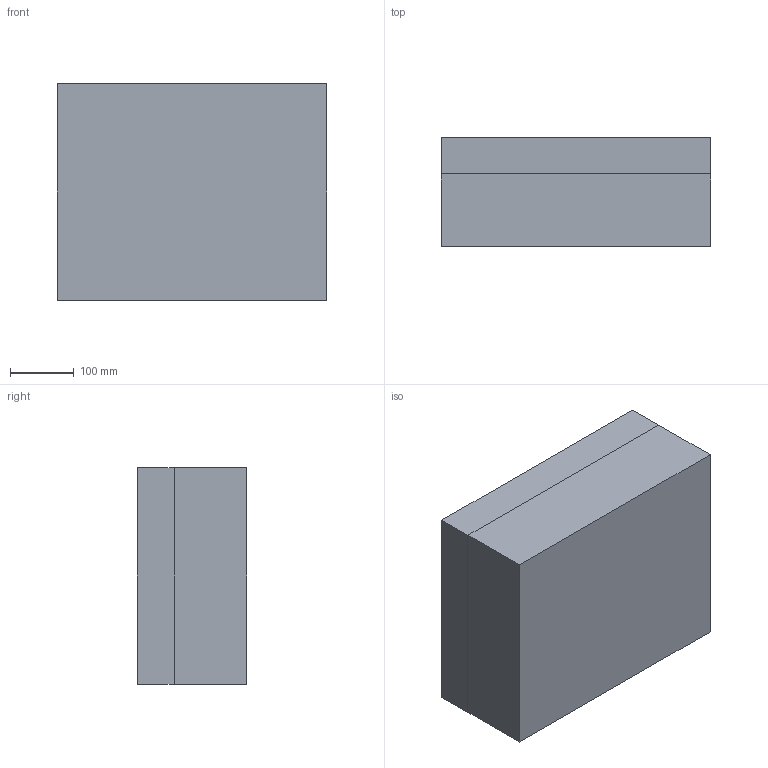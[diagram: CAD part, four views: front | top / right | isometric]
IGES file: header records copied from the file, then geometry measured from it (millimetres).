
Start section: SolidWorks IGES file using analytic representation for surfaces
Global section: file name: S:\Share\NANUK\Solidworks\Dummies\For Line Drawings\IGES\920.IGS; native system: SolidWorks 2008; preprocessor: SolidWorks 2008; author: adallaire; date: 090121.162151; units: inch
Bounding box: 422.72 x 171.63 x 339.83 mm (x, y, z)
Surface area: 1007442.8 mm2 (no closed solid volume)
Topology: 0 solids, 0 shells, 735 faces, 10395 edges, 10385 vertices
Faces by surface type: bspline 505, revolution 230
